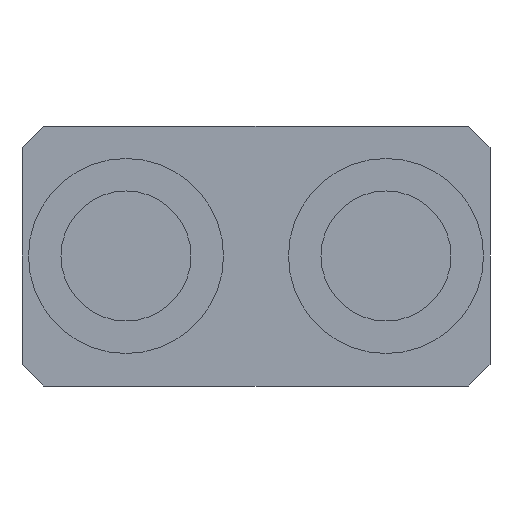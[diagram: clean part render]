
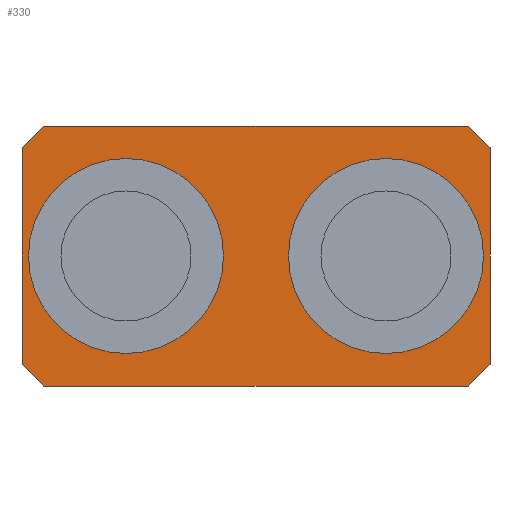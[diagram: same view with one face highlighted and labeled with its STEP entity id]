
A CAD part, left-side view. The second image highlights one B-rep face of the part: STEP entity #330.
In plain terms, the highlighted planar face has unit normal (-1, 0, 0).
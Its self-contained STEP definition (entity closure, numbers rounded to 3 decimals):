
#330 = ADVANCED_FACE('',(#331,#359,#382),#344,.F.);
#331 = FACE_BOUND('',#332,.T.);
#332 = EDGE_LOOP('',(#333));
#333 = ORIENTED_EDGE('',*,*,#334,.F.);
#334 = EDGE_CURVE('',#335,#335,#337,.T.);
#335 = VERTEX_POINT('',#336);
#336 = CARTESIAN_POINT('',(0.,4.65,3.));
#337 = SURFACE_CURVE('',#338,(#343),.PCURVE_S1.);
#338 = CIRCLE('',#339,2.25);
#339 = AXIS2_PLACEMENT_3D('',#340,#341,#342);
#340 = CARTESIAN_POINT('',(0.,2.4,3.));
#341 = DIRECTION('',(-1.,0.,0.));
#342 = DIRECTION('',(0.,1.,0.));
#343 = PCURVE('',#344,#349);
#344 = PLANE('',#345);
#345 = AXIS2_PLACEMENT_3D('',#346,#347,#348);
#346 = CARTESIAN_POINT('',(0.,0.,0.));
#347 = DIRECTION('',(1.,0.,0.));
#348 = DIRECTION('',(0.,0.,-1.));
#349 = DEFINITIONAL_REPRESENTATION('',(#350),#358);
#350 = ( BOUNDED_CURVE() B_SPLINE_CURVE(2,(#351,#352,#353,#354,#355,#356
,#357),.UNSPECIFIED.,.T.,.F.) B_SPLINE_CURVE_WITH_KNOTS((1,2,2,2,2,1),(
    -2.094,0.,2.094,4.189,6.283,
8.378),.UNSPECIFIED.) CURVE() GEOMETRIC_REPRESENTATION_ITEM() 
RATIONAL_B_SPLINE_CURVE((1.,0.5,1.,0.5,1.,0.5,1.)) REPRESENTATION_ITEM(
  '') );
#351 = CARTESIAN_POINT('',(-3.,4.65));
#352 = CARTESIAN_POINT('',(0.897,4.65));
#353 = CARTESIAN_POINT('',(-1.051,1.275));
#354 = CARTESIAN_POINT('',(-3.,-2.1));
#355 = CARTESIAN_POINT('',(-4.949,1.275));
#356 = CARTESIAN_POINT('',(-6.897,4.65));
#357 = CARTESIAN_POINT('',(-3.,4.65));
#358 = ( GEOMETRIC_REPRESENTATION_CONTEXT(2) 
PARAMETRIC_REPRESENTATION_CONTEXT() REPRESENTATION_CONTEXT('2D SPACE',''
  ) );
#359 = FACE_BOUND('',#360,.T.);
#360 = EDGE_LOOP('',(#361));
#361 = ORIENTED_EDGE('',*,*,#362,.F.);
#362 = EDGE_CURVE('',#363,#363,#365,.T.);
#363 = VERTEX_POINT('',#364);
#364 = CARTESIAN_POINT('',(0.,10.65,3.));
#365 = SURFACE_CURVE('',#366,(#371),.PCURVE_S1.);
#366 = CIRCLE('',#367,2.25);
#367 = AXIS2_PLACEMENT_3D('',#368,#369,#370);
#368 = CARTESIAN_POINT('',(0.,8.4,3.));
#369 = DIRECTION('',(-1.,0.,0.));
#370 = DIRECTION('',(0.,1.,0.));
#371 = PCURVE('',#344,#372);
#372 = DEFINITIONAL_REPRESENTATION('',(#373),#381);
#373 = ( BOUNDED_CURVE() B_SPLINE_CURVE(2,(#374,#375,#376,#377,#378,#379
,#380),.UNSPECIFIED.,.T.,.F.) B_SPLINE_CURVE_WITH_KNOTS((1,2,2,2,2,1),(
    -2.094,0.,2.094,4.189,6.283,
8.378),.UNSPECIFIED.) CURVE() GEOMETRIC_REPRESENTATION_ITEM() 
RATIONAL_B_SPLINE_CURVE((1.,0.5,1.,0.5,1.,0.5,1.)) REPRESENTATION_ITEM(
  '') );
#374 = CARTESIAN_POINT('',(-3.,10.65));
#375 = CARTESIAN_POINT('',(0.897,10.65));
#376 = CARTESIAN_POINT('',(-1.051,7.275));
#377 = CARTESIAN_POINT('',(-3.,3.9));
#378 = CARTESIAN_POINT('',(-4.949,7.275));
#379 = CARTESIAN_POINT('',(-6.897,10.65));
#380 = CARTESIAN_POINT('',(-3.,10.65));
#381 = ( GEOMETRIC_REPRESENTATION_CONTEXT(2) 
PARAMETRIC_REPRESENTATION_CONTEXT() REPRESENTATION_CONTEXT('2D SPACE',''
  ) );
#382 = FACE_BOUND('',#383,.T.);
#383 = EDGE_LOOP('',(#384,#402,#418,#434,#450,#466,#482,#498));
#384 = ORIENTED_EDGE('',*,*,#385,.F.);
#385 = EDGE_CURVE('',#386,#388,#390,.T.);
#386 = VERTEX_POINT('',#387);
#387 = CARTESIAN_POINT('',(0.,10.3,6.));
#388 = VERTEX_POINT('',#389);
#389 = CARTESIAN_POINT('',(0.,0.5,6.));
#390 = SURFACE_CURVE('',#391,(#395),.PCURVE_S1.);
#391 = LINE('',#392,#393);
#392 = CARTESIAN_POINT('',(0.,16.8,6.));
#393 = VECTOR('',#394,1.);
#394 = DIRECTION('',(0.,-1.,0.));
#395 = PCURVE('',#344,#396);
#396 = DEFINITIONAL_REPRESENTATION('',(#397),#401);
#397 = LINE('',#398,#399);
#398 = CARTESIAN_POINT('',(-6.,16.8));
#399 = VECTOR('',#400,1.);
#400 = DIRECTION('',(0.,-1.));
#401 = ( GEOMETRIC_REPRESENTATION_CONTEXT(2) 
PARAMETRIC_REPRESENTATION_CONTEXT() REPRESENTATION_CONTEXT('2D SPACE',''
  ) );
#402 = ORIENTED_EDGE('',*,*,#403,.T.);
#403 = EDGE_CURVE('',#386,#404,#406,.T.);
#404 = VERTEX_POINT('',#405);
#405 = CARTESIAN_POINT('',(0.,10.8,5.5));
#406 = SURFACE_CURVE('',#407,(#411),.PCURVE_S1.);
#407 = LINE('',#408,#409);
#408 = CARTESIAN_POINT('',(0.,10.3,6.));
#409 = VECTOR('',#410,1.);
#410 = DIRECTION('',(0.,0.707,-0.707));
#411 = PCURVE('',#344,#412);
#412 = DEFINITIONAL_REPRESENTATION('',(#413),#417);
#413 = LINE('',#414,#415);
#414 = CARTESIAN_POINT('',(-6.,10.3));
#415 = VECTOR('',#416,1.);
#416 = DIRECTION('',(0.707,0.707));
#417 = ( GEOMETRIC_REPRESENTATION_CONTEXT(2) 
PARAMETRIC_REPRESENTATION_CONTEXT() REPRESENTATION_CONTEXT('2D SPACE',''
  ) );
#418 = ORIENTED_EDGE('',*,*,#419,.F.);
#419 = EDGE_CURVE('',#420,#404,#422,.T.);
#420 = VERTEX_POINT('',#421);
#421 = CARTESIAN_POINT('',(0.,10.8,0.5));
#422 = SURFACE_CURVE('',#423,(#427),.PCURVE_S1.);
#423 = LINE('',#424,#425);
#424 = CARTESIAN_POINT('',(0.,10.8,0.));
#425 = VECTOR('',#426,1.);
#426 = DIRECTION('',(0.,0.,1.));
#427 = PCURVE('',#344,#428);
#428 = DEFINITIONAL_REPRESENTATION('',(#429),#433);
#429 = LINE('',#430,#431);
#430 = CARTESIAN_POINT('',(0.,10.8));
#431 = VECTOR('',#432,1.);
#432 = DIRECTION('',(-1.,0.));
#433 = ( GEOMETRIC_REPRESENTATION_CONTEXT(2) 
PARAMETRIC_REPRESENTATION_CONTEXT() REPRESENTATION_CONTEXT('2D SPACE',''
  ) );
#434 = ORIENTED_EDGE('',*,*,#435,.T.);
#435 = EDGE_CURVE('',#420,#436,#438,.T.);
#436 = VERTEX_POINT('',#437);
#437 = CARTESIAN_POINT('',(0.,10.3,0.));
#438 = SURFACE_CURVE('',#439,(#443),.PCURVE_S1.);
#439 = LINE('',#440,#441);
#440 = CARTESIAN_POINT('',(0.,10.3,0.));
#441 = VECTOR('',#442,1.);
#442 = DIRECTION('',(0.,-0.707,-0.707));
#443 = PCURVE('',#344,#444);
#444 = DEFINITIONAL_REPRESENTATION('',(#445),#449);
#445 = LINE('',#446,#447);
#446 = CARTESIAN_POINT('',(0.,10.3));
#447 = VECTOR('',#448,1.);
#448 = DIRECTION('',(0.707,-0.707));
#449 = ( GEOMETRIC_REPRESENTATION_CONTEXT(2) 
PARAMETRIC_REPRESENTATION_CONTEXT() REPRESENTATION_CONTEXT('2D SPACE',''
  ) );
#450 = ORIENTED_EDGE('',*,*,#451,.F.);
#451 = EDGE_CURVE('',#452,#436,#454,.T.);
#452 = VERTEX_POINT('',#453);
#453 = CARTESIAN_POINT('',(0.,0.5,0.));
#454 = SURFACE_CURVE('',#455,(#459),.PCURVE_S1.);
#455 = LINE('',#456,#457);
#456 = CARTESIAN_POINT('',(0.,0.,0.));
#457 = VECTOR('',#458,1.);
#458 = DIRECTION('',(0.,1.,0.));
#459 = PCURVE('',#344,#460);
#460 = DEFINITIONAL_REPRESENTATION('',(#461),#465);
#461 = LINE('',#462,#463);
#462 = CARTESIAN_POINT('',(0.,0.));
#463 = VECTOR('',#464,1.);
#464 = DIRECTION('',(0.,1.));
#465 = ( GEOMETRIC_REPRESENTATION_CONTEXT(2) 
PARAMETRIC_REPRESENTATION_CONTEXT() REPRESENTATION_CONTEXT('2D SPACE',''
  ) );
#466 = ORIENTED_EDGE('',*,*,#467,.T.);
#467 = EDGE_CURVE('',#452,#468,#470,.T.);
#468 = VERTEX_POINT('',#469);
#469 = CARTESIAN_POINT('',(0.,0.,0.5));
#470 = SURFACE_CURVE('',#471,(#475),.PCURVE_S1.);
#471 = LINE('',#472,#473);
#472 = CARTESIAN_POINT('',(0.,0.,0.5));
#473 = VECTOR('',#474,1.);
#474 = DIRECTION('',(0.,-0.707,0.707));
#475 = PCURVE('',#344,#476);
#476 = DEFINITIONAL_REPRESENTATION('',(#477),#481);
#477 = LINE('',#478,#479);
#478 = CARTESIAN_POINT('',(-0.5,0.));
#479 = VECTOR('',#480,1.);
#480 = DIRECTION('',(-0.707,-0.707));
#481 = ( GEOMETRIC_REPRESENTATION_CONTEXT(2) 
PARAMETRIC_REPRESENTATION_CONTEXT() REPRESENTATION_CONTEXT('2D SPACE',''
  ) );
#482 = ORIENTED_EDGE('',*,*,#483,.F.);
#483 = EDGE_CURVE('',#484,#468,#486,.T.);
#484 = VERTEX_POINT('',#485);
#485 = CARTESIAN_POINT('',(0.,0.,5.5));
#486 = SURFACE_CURVE('',#487,(#491),.PCURVE_S1.);
#487 = LINE('',#488,#489);
#488 = CARTESIAN_POINT('',(0.,0.,6.));
#489 = VECTOR('',#490,1.);
#490 = DIRECTION('',(0.,0.,-1.));
#491 = PCURVE('',#344,#492);
#492 = DEFINITIONAL_REPRESENTATION('',(#493),#497);
#493 = LINE('',#494,#495);
#494 = CARTESIAN_POINT('',(-6.,0.));
#495 = VECTOR('',#496,1.);
#496 = DIRECTION('',(1.,0.));
#497 = ( GEOMETRIC_REPRESENTATION_CONTEXT(2) 
PARAMETRIC_REPRESENTATION_CONTEXT() REPRESENTATION_CONTEXT('2D SPACE',''
  ) );
#498 = ORIENTED_EDGE('',*,*,#499,.T.);
#499 = EDGE_CURVE('',#484,#388,#500,.T.);
#500 = SURFACE_CURVE('',#501,(#505),.PCURVE_S1.);
#501 = LINE('',#502,#503);
#502 = CARTESIAN_POINT('',(0.,0.5,6.));
#503 = VECTOR('',#504,1.);
#504 = DIRECTION('',(0.,0.707,0.707));
#505 = PCURVE('',#344,#506);
#506 = DEFINITIONAL_REPRESENTATION('',(#507),#511);
#507 = LINE('',#508,#509);
#508 = CARTESIAN_POINT('',(-6.,0.5));
#509 = VECTOR('',#510,1.);
#510 = DIRECTION('',(-0.707,0.707));
#511 = ( GEOMETRIC_REPRESENTATION_CONTEXT(2) 
PARAMETRIC_REPRESENTATION_CONTEXT() REPRESENTATION_CONTEXT('2D SPACE',''
  ) );
